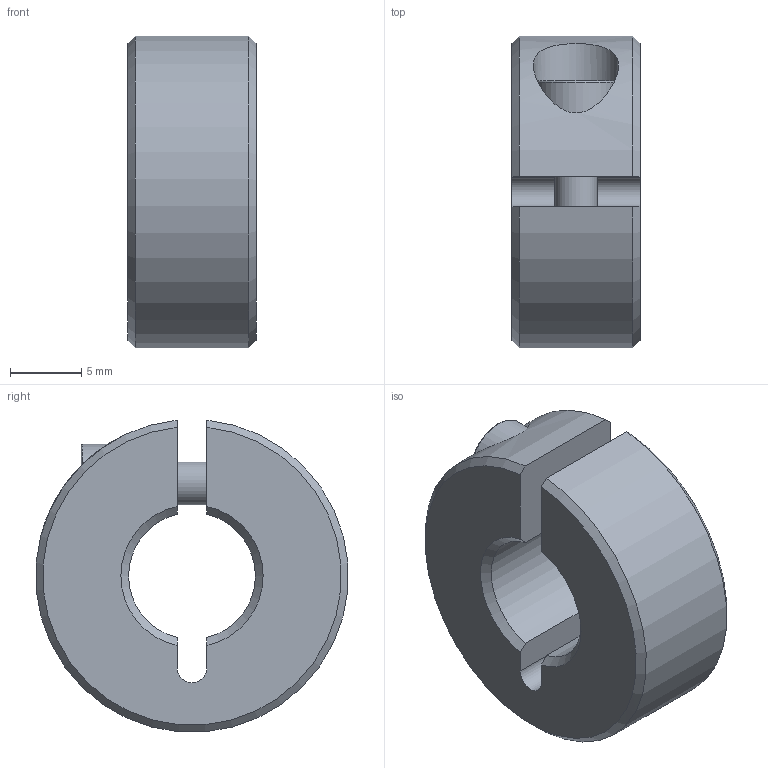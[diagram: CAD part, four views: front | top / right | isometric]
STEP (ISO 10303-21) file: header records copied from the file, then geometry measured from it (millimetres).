
FILE_DESCRIPTION( ( 'STEP AP203' ), '1' );
FILE_NAME( 'C:/Temp/Ganter_Step_05_03_2020/data/3_2/gn706_3/gn706_3_st/Threaded set collar GN 706.3-22-M10x1-ST.stp', '2020-03-13T05:33:33', ( 'License CC BY-ND 4.0' ), ( 'CADENAS' ), ' ', 'PARTsolutions', ' ' );
FILE_SCHEMA( ( 'CONFIG_CONTROL_DESIGN' ) );
Length unit declared in the file: millimetre
Products named in the file (1): _Threaded set collar GN 706.3-22-M10x1-ST
Bounding box: 9 x 21.92 x 21.91 mm (x, y, z)
Volume: 2617.6 mm3; surface area: 1752.5 mm2
Topology: 1 solids, 1 shells, 31 faces, 74 edges, 49 vertices
Faces by surface type: plane 16, cylinder 8, cone 6, torus 1
Full cylindrical faces by diameter (mm): 3 x1, 3.3 x1, 5.5 x1, 6 x1
Entity records: 1000 total; most frequent: CARTESIAN_POINT 251, DIRECTION 142, ORIENTED_EDGE 138, EDGE_CURVE 69, AXIS2_PLACEMENT_3D 54, VERTEX_POINT 49, EDGE_LOOP 42, FACE_OUTER_BOUND 36
